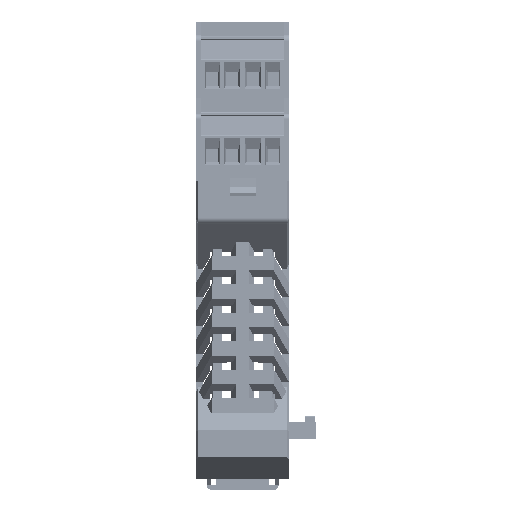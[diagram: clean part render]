
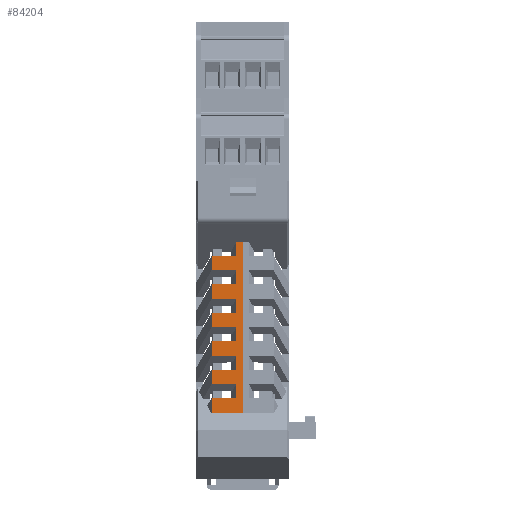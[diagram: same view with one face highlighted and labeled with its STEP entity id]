
A CAD part, front view. The second image highlights one B-rep face of the part: STEP entity #84204.
In plain terms, the highlighted planar face has unit normal (0, -1, 0) as drawn and (1, 0, 0) by its records, which use the part's own axes.
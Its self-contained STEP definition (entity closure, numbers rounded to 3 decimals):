
#84204=ADVANCED_FACE('',(#182284),#182286,.T.);
#182284=FACE_BOUND('',#182285,.T.);
#182285=EDGE_LOOP('',(#261011,#261012,#261013,#261014,#261015,#261016,#261017,#261018,
#261019,#261020,#261021,#261022,#261023,#261024,#261025,#261026,#261027,#261028,
#261029,#261030,#261031,#261032,#261033,#261034,#261035,#261036));
#182286=PLANE('',#182287);
#182287=AXIS2_PLACEMENT_3D('',#182288,#182289,#182290);
#182288=CARTESIAN_POINT('',(42.55,76.5,0.));
#182289=DIRECTION('',(1.,0.,0.));
#182290=DIRECTION('',(0.,0.,-1.));
#261011=ORIENTED_EDGE('',*,*,#308114,.F.);
#261012=ORIENTED_EDGE('',*,*,#308053,.F.);
#261013=ORIENTED_EDGE('',*,*,#308115,.F.);
#261014=ORIENTED_EDGE('',*,*,#308116,.T.);
#261015=ORIENTED_EDGE('',*,*,#307617,.T.);
#261016=ORIENTED_EDGE('',*,*,#308117,.F.);
#261017=ORIENTED_EDGE('',*,*,#307983,.F.);
#261018=ORIENTED_EDGE('',*,*,#308048,.F.);
#261019=ORIENTED_EDGE('',*,*,#307778,.F.);
#261020=ORIENTED_EDGE('',*,*,#308094,.T.);
#261021=ORIENTED_EDGE('',*,*,#308072,.F.);
#261022=ORIENTED_EDGE('',*,*,#308045,.F.);
#261023=ORIENTED_EDGE('',*,*,#308100,.F.);
#261024=ORIENTED_EDGE('',*,*,#308118,.T.);
#261025=ORIENTED_EDGE('',*,*,#308101,.T.);
#261026=ORIENTED_EDGE('',*,*,#308059,.F.);
#261027=ORIENTED_EDGE('',*,*,#308113,.T.);
#261028=ORIENTED_EDGE('',*,*,#308119,.T.);
#261029=ORIENTED_EDGE('',*,*,#308120,.T.);
#261030=ORIENTED_EDGE('',*,*,#308056,.F.);
#261031=ORIENTED_EDGE('',*,*,#308035,.T.);
#261032=ORIENTED_EDGE('',*,*,#308121,.F.);
#261033=ORIENTED_EDGE('',*,*,#308015,.T.);
#261034=ORIENTED_EDGE('',*,*,#308055,.F.);
#261035=ORIENTED_EDGE('',*,*,#308028,.T.);
#261036=ORIENTED_EDGE('',*,*,#308122,.T.);
#307617=EDGE_CURVE('',#361079,#361077,#361080,.T.);
#307778=EDGE_CURVE('',#361353,#361355,#361356,.T.);
#307983=EDGE_CURVE('',#361700,#361702,#361703,.T.);
#308015=EDGE_CURVE('',#361744,#361750,#361752,.T.);
#308028=EDGE_CURVE('',#361772,#361770,#361773,.T.);
#308035=EDGE_CURVE('',#361776,#361780,#361782,.T.);
#308045=EDGE_CURVE('',#361797,#361799,#361800,.T.);
#308048=EDGE_CURVE('',#361355,#361700,#361804,.T.);
#308053=EDGE_CURVE('',#361811,#361813,#361814,.T.);
#308055=EDGE_CURVE('',#361772,#361750,#361816,.T.);
#308056=EDGE_CURVE('',#361776,#361817,#361818,.T.);
#308059=EDGE_CURVE('',#361820,#361822,#361823,.T.);
#308072=EDGE_CURVE('',#361799,#361842,#361843,.T.);
#308094=EDGE_CURVE('',#361353,#361842,#361878,.T.);
#308100=EDGE_CURVE('',#361885,#361797,#361887,.T.);
#308101=EDGE_CURVE('',#361888,#361822,#361889,.T.);
#308113=EDGE_CURVE('',#361820,#361903,#361905,.T.);
#308114=EDGE_CURVE('',#361813,#361906,#361907,.T.);
#308115=EDGE_CURVE('',#361908,#361811,#361909,.T.);
#308116=EDGE_CURVE('',#361908,#361079,#361910,.T.);
#308117=EDGE_CURVE('',#361702,#361077,#361911,.T.);
#308118=EDGE_CURVE('',#361885,#361888,#361912,.T.);
#308119=EDGE_CURVE('',#361903,#361913,#361914,.T.);
#308120=EDGE_CURVE('',#361913,#361817,#361915,.T.);
#308121=EDGE_CURVE('',#361744,#361780,#361916,.T.);
#308122=EDGE_CURVE('',#361770,#361906,#361917,.T.);
#361077=VERTEX_POINT('',#482521);
#361079=VERTEX_POINT('',#482525);
#361080=LINE('',#482526,#482527);
#361353=VERTEX_POINT('',#483128);
#361355=VERTEX_POINT('',#483132);
#361356=LINE('',#483133,#483134);
#361700=VERTEX_POINT('',#483903);
#361702=VERTEX_POINT('',#483907);
#361703=LINE('',#483908,#483909);
#361744=VERTEX_POINT('',#484003);
#361750=VERTEX_POINT('',#484017);
#361752=LINE('',#484021,#484022);
#361770=VERTEX_POINT('',#484063);
#361772=VERTEX_POINT('',#484067);
#361773=LINE('',#484068,#484069);
#361776=VERTEX_POINT('',#484077);
#361780=VERTEX_POINT('',#484087);
#361782=LINE('',#484091,#484092);
#361797=VERTEX_POINT('',#484124);
#361799=VERTEX_POINT('',#484128);
#361800=LINE('',#484129,#484130);
#361804=LINE('',#484139,#484140);
#361811=VERTEX_POINT('',#484154);
#361813=VERTEX_POINT('',#484158);
#361814=LINE('',#484159,#484160);
#361816=LINE('',#484165,#484166);
#361817=VERTEX_POINT('',#484168);
#361818=LINE('',#484169,#484170);
#361820=VERTEX_POINT('',#484175);
#361822=VERTEX_POINT('',#484179);
#361823=LINE('',#484180,#484181);
#361842=VERTEX_POINT('',#484225);
#361843=LINE('',#484226,#484227);
#361878=LINE('',#484305,#484306);
#361885=VERTEX_POINT('',#484322);
#361887=LINE('',#484326,#484327);
#361888=VERTEX_POINT('',#484329);
#361889=LINE('',#484330,#484331);
#361903=VERTEX_POINT('',#484366);
#361905=LINE('',#484370,#484371);
#361906=VERTEX_POINT('',#484373);
#361907=LINE('',#484374,#484375);
#361908=VERTEX_POINT('',#484377);
#361909=LINE('',#484378,#484379);
#361910=LINE('',#484381,#484382);
#361911=LINE('',#484384,#484385);
#361912=LINE('',#484387,#484388);
#361913=VERTEX_POINT('',#484390);
#361914=LINE('',#484391,#484392);
#361915=LINE('',#484394,#484395);
#361916=LINE('',#484397,#484398);
#361917=LINE('',#484400,#484401);
#482521=CARTESIAN_POINT('',(42.55,20.,0.));
#482525=CARTESIAN_POINT('',(42.55,20.,7.547));
#482526=CARTESIAN_POINT('',(42.55,20.,7.547));
#482527=VECTOR('',#482528,1.);
#482528=DIRECTION('',(0.,0.,-1.));
#483128=CARTESIAN_POINT('',(42.55,58.2,7.547));
#483132=CARTESIAN_POINT('',(42.55,58.2,1.5));
#483133=CARTESIAN_POINT('',(42.55,58.2,7.547));
#483134=VECTOR('',#483135,1.);
#483135=DIRECTION('',(0.,0.,-1.));
#483903=CARTESIAN_POINT('',(42.55,61.6,1.5));
#483907=CARTESIAN_POINT('',(42.55,61.6,0.));
#483908=CARTESIAN_POINT('',(42.55,61.6,1.5));
#483909=VECTOR('',#483910,1.);
#483910=DIRECTION('',(0.,0.,-1.));
#484003=CARTESIAN_POINT('',(42.55,34.,7.547));
#484017=CARTESIAN_POINT('',(42.55,34.,1.5));
#484021=CARTESIAN_POINT('',(42.55,34.,7.547));
#484022=VECTOR('',#484023,1.);
#484023=DIRECTION('',(0.,0.,-1.));
#484063=CARTESIAN_POINT('',(42.55,30.6,7.547));
#484067=CARTESIAN_POINT('',(42.55,30.6,1.5));
#484068=CARTESIAN_POINT('',(42.55,30.6,1.5));
#484069=VECTOR('',#484070,1.);
#484070=DIRECTION('',(0.,0.,1.));
#484077=CARTESIAN_POINT('',(42.55,37.5,1.5));
#484087=CARTESIAN_POINT('',(42.55,37.5,7.547));
#484091=CARTESIAN_POINT('',(42.55,37.5,1.5));
#484092=VECTOR('',#484093,1.);
#484093=DIRECTION('',(0.,0.,1.));
#484124=CARTESIAN_POINT('',(42.55,51.3,1.5));
#484128=CARTESIAN_POINT('',(42.55,54.7,1.5));
#484129=CARTESIAN_POINT('',(42.55,51.3,1.5));
#484130=VECTOR('',#484131,1.);
#484131=DIRECTION('',(0.,1.,0.));
#484139=CARTESIAN_POINT('',(42.55,58.2,1.5));
#484140=VECTOR('',#484141,1.);
#484141=DIRECTION('',(0.,1.,0.));
#484154=CARTESIAN_POINT('',(42.55,23.7,1.5));
#484158=CARTESIAN_POINT('',(42.55,27.1,1.5));
#484159=CARTESIAN_POINT('',(42.55,23.7,1.5));
#484160=VECTOR('',#484161,1.);
#484161=DIRECTION('',(0.,1.,0.));
#484165=CARTESIAN_POINT('',(42.55,30.6,1.5));
#484166=VECTOR('',#484167,1.);
#484167=DIRECTION('',(0.,1.,0.));
#484168=CARTESIAN_POINT('',(42.55,40.9,1.5));
#484169=CARTESIAN_POINT('',(42.55,37.5,1.5));
#484170=VECTOR('',#484171,1.);
#484171=DIRECTION('',(0.,1.,0.));
#484175=CARTESIAN_POINT('',(42.55,44.4,1.5));
#484179=CARTESIAN_POINT('',(42.55,47.8,1.5));
#484180=CARTESIAN_POINT('',(42.55,44.4,1.5));
#484181=VECTOR('',#484182,1.);
#484182=DIRECTION('',(0.,1.,0.));
#484225=CARTESIAN_POINT('',(42.55,54.7,7.547));
#484226=CARTESIAN_POINT('',(42.55,54.7,1.5));
#484227=VECTOR('',#484228,1.);
#484228=DIRECTION('',(0.,0.,1.));
#484305=CARTESIAN_POINT('',(42.55,58.2,7.547));
#484306=VECTOR('',#484307,1.);
#484307=DIRECTION('',(0.,-1.,0.));
#484322=CARTESIAN_POINT('',(42.55,51.3,7.547));
#484326=CARTESIAN_POINT('',(42.55,51.3,7.547));
#484327=VECTOR('',#484328,1.);
#484328=DIRECTION('',(0.,0.,-1.));
#484329=CARTESIAN_POINT('',(42.55,47.8,7.547));
#484330=CARTESIAN_POINT('',(42.55,47.8,7.547));
#484331=VECTOR('',#484332,1.);
#484332=DIRECTION('',(0.,0.,-1.));
#484366=CARTESIAN_POINT('',(42.55,44.4,7.547));
#484370=CARTESIAN_POINT('',(42.55,44.4,1.5));
#484371=VECTOR('',#484372,1.);
#484372=DIRECTION('',(0.,0.,1.));
#484373=CARTESIAN_POINT('',(42.55,27.1,7.547));
#484374=CARTESIAN_POINT('',(42.55,27.1,1.5));
#484375=VECTOR('',#484376,1.);
#484376=DIRECTION('',(0.,0.,1.));
#484377=CARTESIAN_POINT('',(42.55,23.7,7.547));
#484378=CARTESIAN_POINT('',(42.55,23.7,7.547));
#484379=VECTOR('',#484380,1.);
#484380=DIRECTION('',(0.,0.,-1.));
#484381=CARTESIAN_POINT('',(42.55,23.7,7.547));
#484382=VECTOR('',#484383,1.);
#484383=DIRECTION('',(0.,-1.,0.));
#484384=CARTESIAN_POINT('',(42.55,61.6,0.));
#484385=VECTOR('',#484386,1.);
#484386=DIRECTION('',(0.,-1.,0.));
#484387=CARTESIAN_POINT('',(42.55,51.3,7.547));
#484388=VECTOR('',#484389,1.);
#484389=DIRECTION('',(0.,-1.,0.));
#484390=CARTESIAN_POINT('',(42.55,40.9,7.547));
#484391=CARTESIAN_POINT('',(42.55,44.4,7.547));
#484392=VECTOR('',#484393,1.);
#484393=DIRECTION('',(0.,-1.,0.));
#484394=CARTESIAN_POINT('',(42.55,40.9,7.547));
#484395=VECTOR('',#484396,1.);
#484396=DIRECTION('',(0.,0.,-1.));
#484397=CARTESIAN_POINT('',(42.55,34.,7.547));
#484398=VECTOR('',#484399,1.);
#484399=DIRECTION('',(0.,1.,0.));
#484400=CARTESIAN_POINT('',(42.55,30.6,7.547));
#484401=VECTOR('',#484402,1.);
#484402=DIRECTION('',(0.,-1.,0.));
